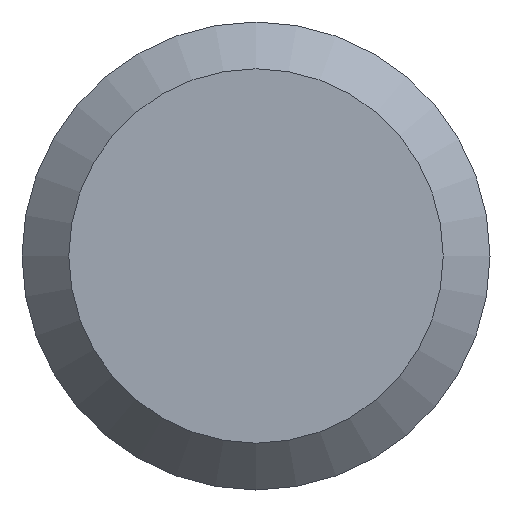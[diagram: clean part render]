
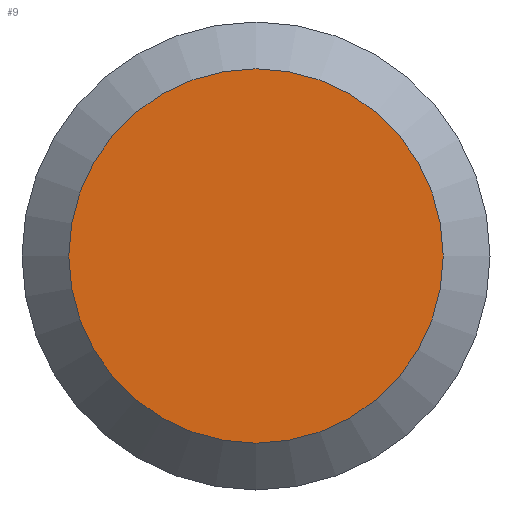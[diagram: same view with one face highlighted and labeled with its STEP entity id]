
A CAD part, left-side view. The second image highlights one B-rep face of the part: STEP entity #9.
In plain terms, the highlighted planar face has unit normal (-1, 0, 0).
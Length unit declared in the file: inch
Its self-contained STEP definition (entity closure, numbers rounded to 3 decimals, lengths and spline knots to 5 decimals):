
#8 = ORIENTED_EDGE ( 'NONE', *, *, #64, .T. ) ;
#9 = ADVANCED_FACE ( 'NONE', ( #93 ), #191, .F. ) ;
#12 = DIRECTION ( 'NONE',  ( -1., 0., 0. ) ) ;
#42 = CARTESIAN_POINT ( 'NONE',  ( 0., 0., 0. ) ) ;
#63 = EDGE_LOOP ( 'NONE', ( #8 ) ) ;
#64 = EDGE_CURVE ( 'NONE', #222, #222, #80, .T. ) ;
#80 = CIRCLE ( 'NONE', #241, 0.1375 ) ;
#93 = FACE_OUTER_BOUND ( 'NONE', #63, .T. ) ;
#100 = DIRECTION ( 'NONE',  ( 1., 0., 0. ) ) ;
#140 = CARTESIAN_POINT ( 'NONE',  ( 0., 0.17188, 0. ) ) ;
#145 = AXIS2_PLACEMENT_3D ( 'NONE', #140, #100, #169 ) ;
#149 = CARTESIAN_POINT ( 'NONE',  ( 0., 0., -0.1375 ) ) ;
#156 = DIRECTION ( 'NONE',  ( 0., 0., -1. ) ) ;
#169 = DIRECTION ( 'NONE',  ( 0., 0., -1. ) ) ;
#191 = PLANE ( 'NONE',  #145 ) ;
#222 = VERTEX_POINT ( 'NONE', #149 ) ;
#241 = AXIS2_PLACEMENT_3D ( 'NONE', #42, #12, #156 ) ;
